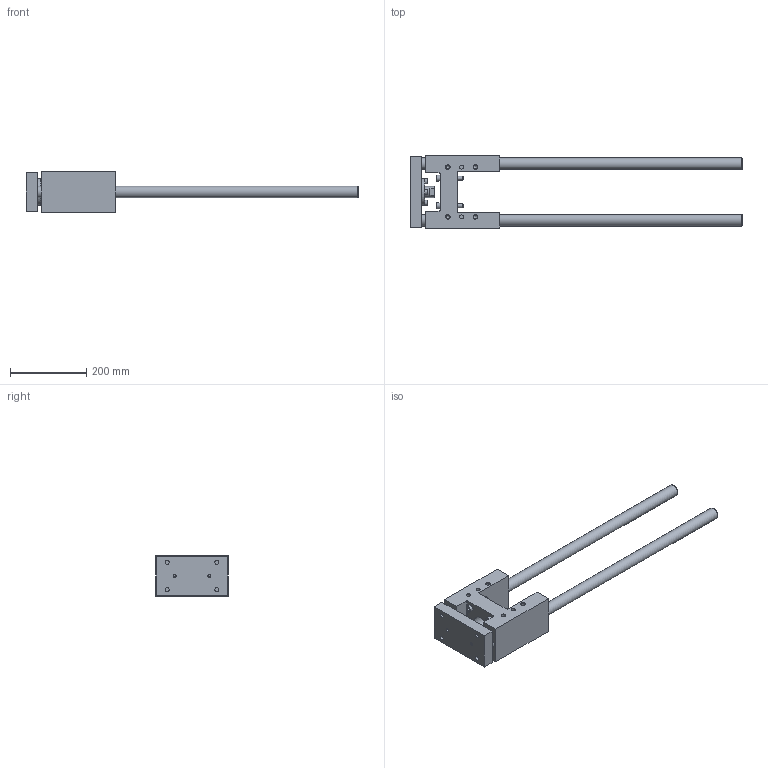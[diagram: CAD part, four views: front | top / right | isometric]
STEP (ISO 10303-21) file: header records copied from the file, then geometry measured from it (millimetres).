
FILE_DESCRIPTION( ( 'STEP AP214' ), '1' );
FILE_NAME( 'U:/Etudes/Top Solid/BIBLIO 3D AVM/TOP/PNEUMATIQUE/GUIDAGES/Type 32 (en H)/R_Renforcée/328R9130.step', '2005-05-27T09:12:30', ( ' ' ), ( ' ' ), 'XStep 1.0', ' ', ' ' );
FILE_SCHEMA( ( 'automotive_design' ) );
Length unit declared in the file: metre
Products named in the file (2): 1; 2
Bounding box: 869 x 189 x 105 mm (x, y, z)
Volume: 3621729.2 mm3; surface area: 444754.5 mm2
Topology: 2 solids, 7 shells, 209 faces, 472 edges, 313 vertices
Faces by surface type: plane 118, cylinder 70, cone 21
Full cylindrical faces by diameter (mm): 8 x10, 8.5 x4, 10 x10, 10.106 x12, 11 x8, 13 x4, 16 x4, 18 x4, 18.376 x2, 29 x1, 30 x4, 32 x1, 42 x1, 45 x2, 70 x1
Entity records: 7075 total; most frequent: CARTESIAN_POINT 1101, DIRECTION 894, ORIENTED_EDGE 690, EDGE_LOOP 362, AXIS2_PLACEMENT_3D 346, EDGE_CURVE 345, VERTEX_POINT 281, FACE_OUTER_BOUND 277
